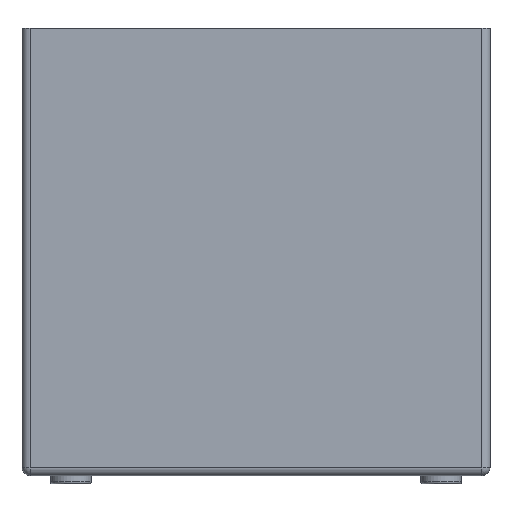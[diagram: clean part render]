
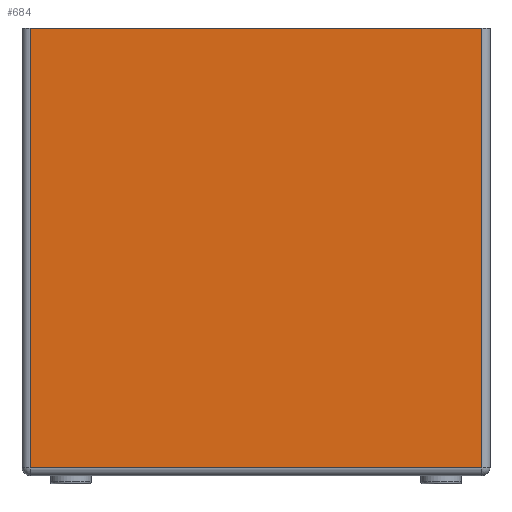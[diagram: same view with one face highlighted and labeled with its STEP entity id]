
A CAD part, front view. The second image highlights one B-rep face of the part: STEP entity #684.
In plain terms, the highlighted planar face has unit normal (0, -1, 0).
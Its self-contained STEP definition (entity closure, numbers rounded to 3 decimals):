
#171 = DIRECTION ( 'NONE',  ( 0., 0., 1. ) ) ;
#365 = CARTESIAN_POINT ( 'NONE',  ( 57.5, -37.5, 2. ) ) ;
#436 = LINE ( 'NONE', #1706, #1914 ) ;
#506 = DIRECTION ( 'NONE',  ( 0., 1., 0. ) ) ;
#611 = VECTOR ( 'NONE', #2777, 1000. ) ;
#683 = VECTOR ( 'NONE', #963, 1000. ) ;
#684 = ADVANCED_FACE ( 'NONE', ( #1092 ), #1438, .F. ) ;
#821 = ORIENTED_EDGE ( 'NONE', *, *, #2401, .T. ) ;
#891 = CARTESIAN_POINT ( 'NONE',  ( -55.5, -37.5, 110. ) ) ;
#943 = CARTESIAN_POINT ( 'NONE',  ( -55.5, -37.5, 110. ) ) ;
#963 = DIRECTION ( 'NONE',  ( 0., 0., -1. ) ) ;
#1092 = FACE_OUTER_BOUND ( 'NONE', #2001, .T. ) ;
#1276 = LINE ( 'NONE', #365, #2486 ) ;
#1438 = PLANE ( 'NONE',  #2417 ) ;
#1602 = DIRECTION ( 'NONE',  ( 1., 0., 0. ) ) ;
#1671 = ORIENTED_EDGE ( 'NONE', *, *, #3097, .F. ) ;
#1673 = CARTESIAN_POINT ( 'NONE',  ( 55.5, -37.5, 2. ) ) ;
#1706 = CARTESIAN_POINT ( 'NONE',  ( 55.5, -37.5, 110. ) ) ;
#1823 = CARTESIAN_POINT ( 'NONE',  ( 55.5, -37.5, 110. ) ) ;
#1912 = VERTEX_POINT ( 'NONE', #3105 ) ;
#1914 = VECTOR ( 'NONE', #171, 1000. ) ;
#2001 = EDGE_LOOP ( 'NONE', ( #1671, #2594, #2136, #821 ) ) ;
#2136 = ORIENTED_EDGE ( 'NONE', *, *, #3225, .T. ) ;
#2269 = EDGE_CURVE ( 'NONE', #3210, #1912, #2523, .T. ) ;
#2328 = CARTESIAN_POINT ( 'NONE',  ( 57.5, -37.5, 110. ) ) ;
#2401 = EDGE_CURVE ( 'NONE', #3755, #3113, #436, .T. ) ;
#2417 = AXIS2_PLACEMENT_3D ( 'NONE', #2328, #506, #3565 ) ;
#2486 = VECTOR ( 'NONE', #1602, 1000. ) ;
#2523 = LINE ( 'NONE', #943, #683 ) ;
#2594 = ORIENTED_EDGE ( 'NONE', *, *, #2269, .T. ) ;
#2777 = DIRECTION ( 'NONE',  ( 1., 0., 0. ) ) ;
#3070 = LINE ( 'NONE', #3379, #611 ) ;
#3097 = EDGE_CURVE ( 'NONE', #3210, #3113, #3070, .T. ) ;
#3105 = CARTESIAN_POINT ( 'NONE',  ( -55.5, -37.5, 2. ) ) ;
#3113 = VERTEX_POINT ( 'NONE', #1823 ) ;
#3210 = VERTEX_POINT ( 'NONE', #891 ) ;
#3225 = EDGE_CURVE ( 'NONE', #1912, #3755, #1276, .T. ) ;
#3379 = CARTESIAN_POINT ( 'NONE',  ( 57.5, -37.5, 110. ) ) ;
#3565 = DIRECTION ( 'NONE',  ( -1., 0., 0. ) ) ;
#3755 = VERTEX_POINT ( 'NONE', #1673 ) ;
